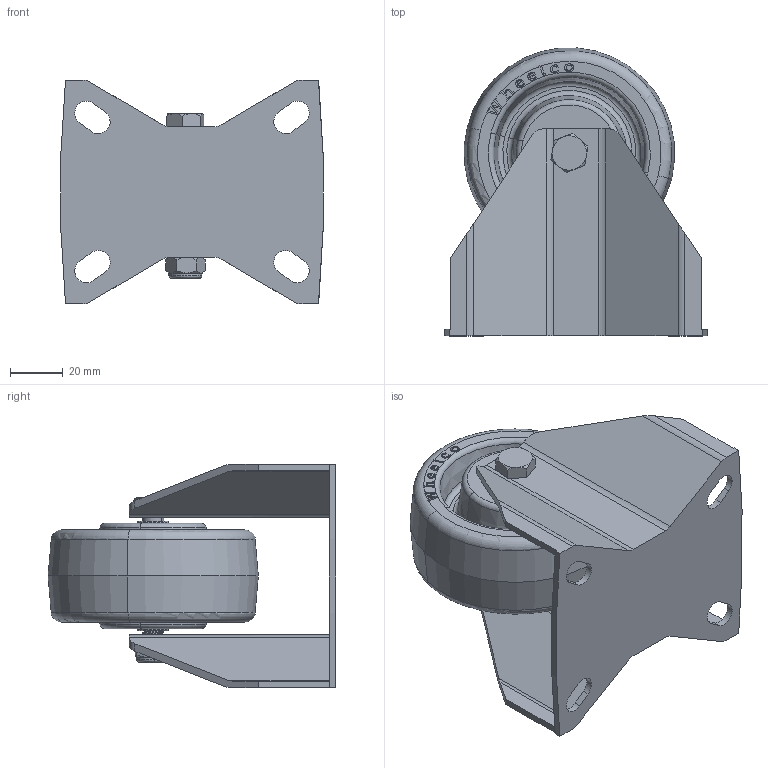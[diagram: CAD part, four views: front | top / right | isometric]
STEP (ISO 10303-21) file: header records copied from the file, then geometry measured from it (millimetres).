
FILE_DESCRIPTION (( 'STEP AP214' ), '1' );
FILE_NAME ('MSU80-SF.step', '2024-01-21T22:24:34', ( '' ), ( '' ), 'SwSTEP 2.0', 'SolidWorks 2022', '' );
FILE_SCHEMA (( 'AUTOMOTIVE_DESIGN' ));
Length unit declared in the file: millimetre
Products named in the file (6): SP12-8-41-SS; MSU80-SF; M8Nyloc-SS; MSU80_Re-size; M8x55-SS
Assembly tree (5 placements, depth 2):
  MSU80-SF
    MSU80-SF
    MSU80_Re-size
    M8x55-SS
    M8Nyloc-SS
    SP12-8-41-SS
Bounding box: 99.58 x 109.24 x 85 mm (x, y, z)
Volume: 193955.5 mm3; surface area: 70732 mm2
Topology: 5 solids, 5 shells, 978 faces, 2702 edges, 1790 vertices
Faces by surface type: plane 515, bspline 303, cylinder 100, cone 32, torus 26, sphere 2
Entity records: 51854 total; most frequent: CARTESIAN_POINT 28281, ORIENTED_EDGE 5404, DIRECTION 3462, EDGE_CURVE 2702, VERTEX_POINT 1790, LINE 1684, VECTOR 1684, EDGE_LOOP 1052
